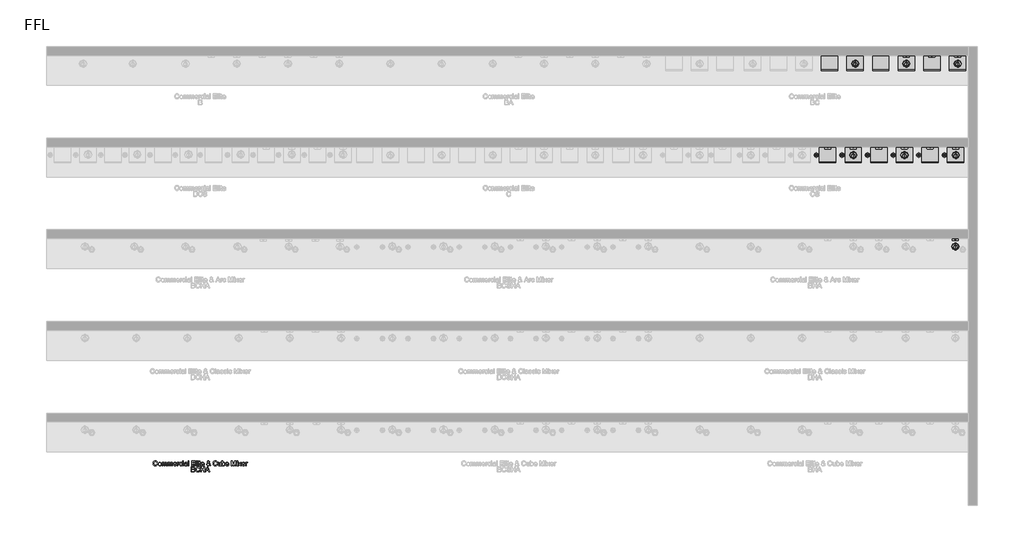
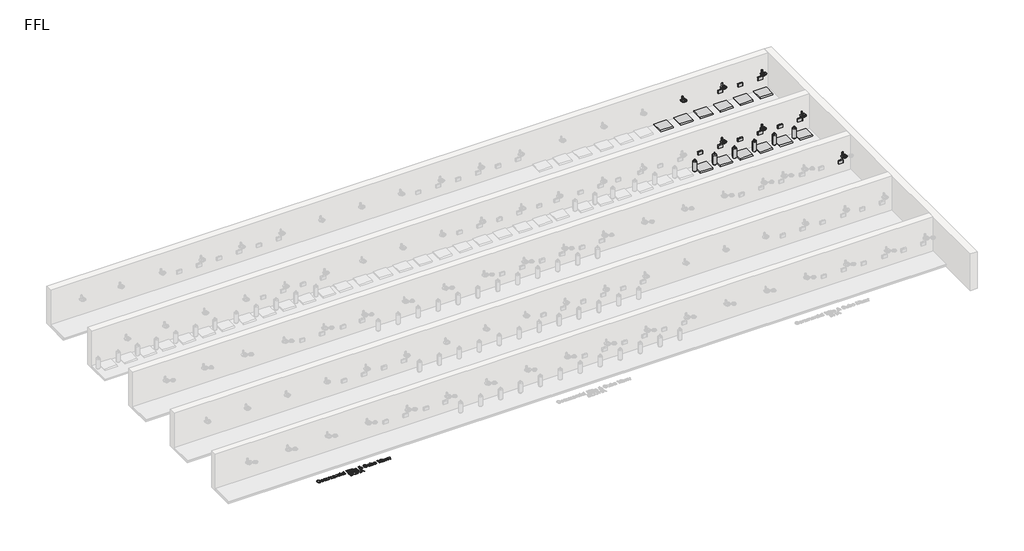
# One storey, part 3 of 13: 35 flow terminals, 1 proxy.
"""IFC4 building model written with IfcOpenShell, lengths in millimetres."""

from ifc_helpers import new_model, si_unit, origin, origin_with_axes, place, context, project, spatial, polyline, outline, extrude, transform, mapped, element, save
from components import flow_terminal_1fd3c137, bcs_and_bc_6de74493, bright_chrome_07e2d693, co2_gas_cylinder_20234e14

model = new_model("IFC4")

# Units and contexts
model_context = context("Model", 3, world=origin())
ifc_project = project(units=[si_unit("LENGTHUNIT", "METRE", prefix="MILLI")], contexts=[model_context])

# Site, building, storey
site = spatial("IfcSite", under=ifc_project)
building = spatial("IfcBuilding", under=site)
storey = spatial("IfcBuildingStorey", under=building, Name="FFL", Elevation=0.0)

# Proxy
placement = place(None, origin())
element("IfcBuildingElementProxy", 1, Name="150mm Arial", ObjectType="150mm Arial", at=placement, inside=storey, context=model_context, shape_type="SweptSolid", body=[
    extrude(outline(polyline([(-3648.5814467, -4463.6981691), (-3630.1199083, -4468.4577845), (-3638.6385381, -4489.9707052), (-3652.0069275, -4505.6873518), (-3669.5670236, -4515.301234), (-3690.6607736, -4518.5058614), (-3712.0745357, -4516.0809816), (-3729.0802448, -4508.8063422), (-3742.1151006, -4496.934347), (-3751.6163025, -4480.7173999), (-3757.4170837, -4461.6518951), (-3759.3506775, -4441.2342268), (-3757.1646799, -4419.6987701), (-3750.6066871, -4401.1020153), (-3740.0192472, -4386.0344071), (-3725.7449083, -4375.0863903), (-3708.8158217, -4368.4202244), (-3690.264139, -4366.1981691), (-3670.022252, -4369.0737701), (-3653.2869756, -4377.700573), (-3640.5811462, -4391.5467268), (-3632.4276006, -4410.0803807), (-3650.889139, -4414.4794191), (-3657.2893794, -4401.0163783), (-3666.0333698, -4391.7811018), (-3677.2292833, -4386.4400561), (-3690.9852929, -4384.6597076), (-3706.8416631, -4386.6338662), (-3719.8675044, -4392.5563422), (-3729.7518193, -4401.8051403), (-3736.1836102, -4413.7582653), (-3740.889139, -4441.1981691), (-3735.3182256, -4473.0010537), (-3728.1968313, -4484.8775561), (-3717.9744756, -4493.3195633), (-3705.7193674, -4498.3631331), (-3692.4997159, -4500.044323), (-3677.0895597, -4497.7546595), (-3664.248514, -4490.8856691), (-3654.553502, -4479.5094672), (-3648.5814467, -4463.6981691)])), origin_with_axes(), (0.0, 0.0, 1.0), 5.0),
    extrude(outline(polyline([(-3611.6583698, -4461.9673999), (-3607.6649804, -4435.8165585), (-3595.6848121, -4417.4361499), (-3580.8831294, -4408.4307412), (-3563.1607736, -4405.4289383), (-3543.7662424, -4409.0842869), (-3528.2749563, -4420.0503326), (-3518.1202087, -4437.4616908), (-3514.7352929, -4460.4529768), (-3516.2316871, -4479.1038182), (-3520.7208698, -4493.3015345), (-3528.0721318, -4503.9340465), (-3538.154764, -4511.8892749), (-3550.1304251, -4516.8517148), (-3563.1607736, -4518.5058614), (-3582.7896799, -4514.8640345), (-3598.2629371, -4503.9385537), (-3608.3095116, -4486.1621114), (-3611.6583698, -4461.9673999)]), holes=[polyline([(-3593.1968313, -4461.9313422), (-3591.0604131, -4478.6395754), (-3584.6511583, -4490.543121), (-3575.0057256, -4497.6690225), (-3563.1607736, -4500.044323), (-3551.3699083, -4497.6555008), (-3541.7425044, -4490.4890345), (-3535.3332496, -4478.4277364), (-3533.1968313, -4461.3544191), (-3535.3467712, -4445.1329648), (-3541.7965909, -4433.3916787), (-3551.4375164, -4426.2657773), (-3563.1607736, -4423.8904768), (-3575.0057256, -4426.2567629), (-3584.6511583, -4433.355621), (-3591.0604131, -4445.2321234), (-3593.1968313, -4461.9313422)])]), origin_with_axes(), (0.0, 0.0, 1.0), 5.0),
    extrude(outline(polyline([(-3493.9660621, -4516.1981691), (-3493.9660621, -4407.7366307), (-3475.5045236, -4407.7366307), (-3475.5045236, -4425.5851883), (-3462.8122159, -4410.9637941), (-3444.7473121, -4405.4289383), (-3434.4798842, -4406.8396956), (-3426.2497159, -4411.0719672), (-3416.0814467, -4426.8832653), (-3401.6763986, -4410.7925201), (-3383.4852929, -4405.4289383), (-3369.6075885, -4407.6600081), (-3359.3446679, -4414.3532172), (-3353.0030212, -4425.6888542), (-3350.889139, -4441.8472076), (-3350.889139, -4516.1981691), (-3369.3506775, -4516.1981691), (-3369.3506775, -4449.7798999), (-3371.0634179, -4434.3652364), (-3377.2653409, -4426.7750922), (-3387.8122159, -4423.8904768), (-3397.8137184, -4425.7384335), (-3405.967264, -4431.2823037), (-3411.3894395, -4440.9006932), (-3413.1968313, -4454.9722076), (-3413.1968313, -4516.1981691), (-3431.6583698, -4516.1981691), (-3431.6583698, -4447.7246114), (-3435.9312063, -4429.839996), (-3441.569728, -4425.3778566), (-3449.9396198, -4423.8904768), (-3463.6054852, -4427.856823), (-3472.6920236, -4439.4673999), (-3475.5045236, -4461.4986499), (-3475.5045236, -4516.1981691), (-3493.9660621, -4516.1981691)])), origin_with_axes(), (0.0, 0.0, 1.0), 5.0),
    extrude(outline(polyline([(-3323.1968313, -4516.1981691), (-3323.1968313, -4407.7366307), (-3304.7352929, -4407.7366307), (-3304.7352929, -4425.5851883), (-3292.0429852, -4410.9637941), (-3273.9780813, -4405.4289383), (-3263.7106534, -4406.8396956), (-3255.4804852, -4411.0719672), (-3245.3122159, -4426.8832653), (-3230.9071679, -4410.7925201), (-3212.7160621, -4405.4289383), (-3198.8383578, -4407.6600081), (-3188.5754371, -4414.3532172), (-3182.2337905, -4425.6888542), (-3180.1199083, -4441.8472076), (-3180.1199083, -4516.1981691), (-3198.5814467, -4516.1981691), (-3198.5814467, -4449.7798999), (-3200.2941871, -4434.3652364), (-3206.4961102, -4426.7750922), (-3217.0429852, -4423.8904768), (-3227.0444876, -4425.7384335), (-3235.1980333, -4431.2823037), (-3240.6202087, -4440.9006932), (-3242.4276006, -4454.9722076), (-3242.4276006, -4516.1981691), (-3260.889139, -4516.1981691), (-3260.889139, -4447.7246114), (-3265.1619756, -4429.839996), (-3270.8004972, -4425.3778566), (-3279.170389, -4423.8904768), (-3292.8362544, -4427.856823), (-3301.9227929, -4439.4673999), (-3304.7352929, -4461.4986499), (-3304.7352929, -4516.1981691), (-3323.1968313, -4516.1981691)])), origin_with_axes(), (0.0, 0.0, 1.0), 5.0),
    extrude(outline(polyline([(-3076.4901006, -4483.8904768), (-3058.389139, -4486.1981691), (-3064.9110741, -4499.8369912), (-3075.3182256, -4510.0323037), (-3089.3762184, -4516.387472), (-3106.8506775, -4518.5058614), (-3128.5123361, -4514.8505129), (-3145.1800044, -4503.8844672), (-3155.8080092, -4486.3198638), (-3159.3506775, -4462.8688422), (-3155.7719515, -4438.6290585), (-3145.0357736, -4420.5010537), (-3128.5934659, -4409.1969672), (-3107.8963506, -4405.4289383), (-3087.8437664, -4409.1879528), (-3071.8206294, -4420.464996), (-3061.3143193, -4438.5569432), (-3057.8122159, -4462.7606691), (-3057.920389, -4467.7366307), (-3140.889139, -4467.7366307), (-3137.693526, -4481.5557412), (-3130.2701486, -4491.714996), (-3119.5565068, -4497.9619912), (-3106.4901006, -4500.044323), (-3088.389139, -4496.1861499), (-3076.4901006, -4483.8904768)]), holes=[polyline([(-3140.889139, -4449.2750922), (-3076.2737544, -4449.2750922), (-3078.7707496, -4439.5214864), (-3083.6655813, -4432.544323), (-3094.4288025, -4426.0539383), (-3107.9684659, -4423.8904768), (-3120.412877, -4425.6167388), (-3130.7028409, -4430.7955249), (-3137.8557857, -4438.8679408), (-3140.889139, -4449.2750922)])]), origin_with_axes(), (0.0, 0.0, 1.0), 5.0),
    extrude(outline(polyline([(-3039.3506775, -4516.1981691), (-3039.3506775, -4407.7366307), (-3023.1968313, -4407.7366307), (-3023.1968313, -4423.7823037), (-3011.7304852, -4408.9986499), (-3000.1920236, -4405.4289383), (-2981.6583698, -4411.1260537), (-2987.8242352, -4427.6765345), (-3000.8050044, -4423.8904768), (-3011.2437063, -4427.5323037), (-3017.8963506, -4437.6284576), (-3020.889139, -4459.1909576), (-3020.889139, -4516.1981691), (-3039.3506775, -4516.1981691)])), origin_with_axes(), (0.0, 0.0, 1.0), 5.0),
    extrude(outline(polyline([(-2900.889139, -4476.9673999), (-2882.4276006, -4479.2750922), (-2887.5748361, -4495.6948638), (-2897.2473121, -4508.1032172), (-2910.5345717, -4515.9052004), (-2926.5261583, -4518.5058614), (-2946.1640789, -4514.8775561), (-2961.5201486, -4503.9926403), (-2971.4315068, -4486.3288783), (-2974.7352929, -4462.3640345), (-2969.092264, -4431.6969672), (-2961.9708698, -4420.1990706), (-2951.8927448, -4411.9914383), (-2939.8359539, -4407.0695633), (-2926.7785621, -4405.4289383), (-2911.179103, -4407.6825441), (-2898.7076486, -4414.4433614), (-2889.7608337, -4425.3508133), (-2884.7352929, -4440.044323), (-2903.1968313, -4442.3520153), (-2911.7605333, -4428.5238903), (-2926.6343313, -4423.8904768), (-2938.5649203, -4426.1711258), (-2948.0345717, -4433.013073), (-2954.2139587, -4444.7859095), (-2956.2737544, -4461.8592268), (-2954.2590309, -4479.1624119), (-2948.2148602, -4490.9758133), (-2938.9164828, -4497.7771956), (-2927.139139, -4500.044323), (-2917.5793434, -4498.6290585), (-2909.7413025, -4494.3832653), (-2904.0396799, -4487.1987701), (-2900.889139, -4476.9673999)])), origin_with_axes(), (0.0, 0.0, 1.0), 5.0),
    extrude(outline(polyline([(-2866.2737544, -4386.9673999), (-2866.2737544, -4368.5058614), (-2847.8122159, -4368.5058614), (-2847.8122159, -4386.9673999), (-2866.2737544, -4386.9673999)])), origin_with_axes(), (0.0, 0.0, 1.0), 5.0),
    extrude(outline(polyline([(-2866.2737544, -4516.1981691), (-2866.2737544, -4407.7366307), (-2847.8122159, -4407.7366307), (-2847.8122159, -4516.1981691), (-2866.2737544, -4516.1981691)])), origin_with_axes(), (0.0, 0.0, 1.0), 5.0),
    extrude(outline(polyline([(-2750.889139, -4502.3520153), (-2768.7917833, -4514.8640345), (-2788.5694275, -4518.5058614), (-2803.9976126, -4516.3153566), (-2815.3783217, -4509.7438422), (-2822.3960501, -4499.7648758), (-2824.7352929, -4487.3520153), (-2821.201639, -4472.7486499), (-2811.9167833, -4462.1476883), (-2798.9901006, -4456.089996), (-2783.0165429, -4453.3135537), (-2750.9973121, -4446.9673999), (-2750.889139, -4442.856823), (-2752.1601727, -4434.6176403), (-2755.9732736, -4429.2270153), (-2764.5009179, -4425.2246114), (-2776.3819275, -4423.8904768), (-2795.0598121, -4427.4421595), (-2803.9660621, -4440.044323), (-2822.4276006, -4437.7366307), (-2814.4408217, -4419.7077845), (-2798.3590909, -4409.1428807), (-2774.0021198, -4405.4289383), (-2751.6283217, -4408.7101883), (-2738.9901006, -4416.949371), (-2733.3290429, -4429.4794191), (-2732.4276006, -4445.6332653), (-2732.4276006, -4468.6020153), (-2731.4901006, -4500.6753326), (-2727.8122159, -4516.1981691), (-2746.2737544, -4516.1981691), (-2750.889139, -4502.3520153)]), holes=[polyline([(-2750.889139, -4465.4289383), (-2780.6727929, -4471.089996), (-2796.5562063, -4474.0827845), (-2803.7497159, -4478.950573), (-2806.2737544, -4486.0539383), (-2800.7749563, -4496.0419191), (-2784.639139, -4500.044323), (-2765.9612544, -4495.6272557), (-2753.9179852, -4484.9361499), (-2750.9973121, -4470.6573037), (-2750.889139, -4465.4289383)])]), origin_with_axes(), (0.0, 0.0, 1.0), 5.0),
    extrude(outline(polyline([(-2707.0429852, -4516.1981691), (-2707.0429852, -4368.5058614), (-2688.5814467, -4368.5058614), (-2688.5814467, -4516.1981691), (-2707.0429852, -4516.1981691)])), origin_with_axes(), (0.0, 0.0, 1.0), 5.0),
    extrude(outline(polyline([(-2600.889139, -4516.1981691), (-2600.889139, -4368.5058614), (-2494.7352929, -4368.5058614), (-2494.7352929, -4386.9673999), (-2582.4276006, -4386.9673999), (-2582.4276006, -4430.8135537), (-2499.3506775, -4430.8135537), (-2499.3506775, -4449.2750922), (-2582.4276006, -4449.2750922), (-2582.4276006, -4497.7366307), (-2492.4276006, -4497.7366307), (-2492.4276006, -4516.1981691), (-2600.889139, -4516.1981691)])), origin_with_axes(), (0.0, 0.0, 1.0), 5.0),
    extrude(outline(polyline([(-2467.0429852, -4516.1981691), (-2467.0429852, -4368.5058614), (-2448.5814467, -4368.5058614), (-2448.5814467, -4516.1981691), (-2467.0429852, -4516.1981691)])), origin_with_axes(), (0.0, 0.0, 1.0), 5.0),
    extrude(outline(polyline([(-2420.889139, -4516.1981691), (-2420.889139, -4407.7366307), (-2402.4276006, -4407.7366307), (-2402.4276006, -4516.1981691), (-2420.889139, -4516.1981691)])), origin_with_axes(), (0.0, 0.0, 1.0), 5.0),
    extrude(outline(polyline([(-2420.889139, -4386.9673999), (-2420.889139, -4368.5058614), (-2402.4276006, -4368.5058614), (-2402.4276006, -4386.9673999), (-2420.889139, -4386.9673999)])), origin_with_axes(), (0.0, 0.0, 1.0), 5.0),
    extrude(outline(polyline([(-2335.5045236, -4500.8015345), (-2333.1968313, -4516.7390345), (-2347.0069275, -4518.5058614), (-2362.4756775, -4515.4409576), (-2370.1920236, -4507.4000922), (-2372.4276006, -4486.450573), (-2372.4276006, -4426.1981691), (-2386.2737544, -4426.1981691), (-2386.2737544, -4407.7366307), (-2372.4276006, -4407.7366307), (-2372.4276006, -4381.3784576), (-2353.9660621, -4370.5250922), (-2353.9660621, -4407.7366307), (-2335.5045236, -4407.7366307), (-2335.5045236, -4426.1981691), (-2353.9660621, -4426.1981691), (-2353.9660621, -4485.9097076), (-2352.9925044, -4495.4289383), (-2349.8374563, -4498.8003326), (-2343.545389, -4500.044323), (-2335.5045236, -4500.8015345)])), origin_with_axes(), (0.0, 0.0, 1.0), 5.0),
    extrude(outline(polyline([(-2241.1054852, -4483.8904768), (-2223.0045236, -4486.1981691), (-2229.5264587, -4499.8369912), (-2239.9336102, -4510.0323037), (-2253.991603, -4516.387472), (-2271.4660621, -4518.5058614), (-2293.1277208, -4514.8505129), (-2309.795389, -4503.8844672), (-2320.4233938, -4486.3198638), (-2323.9660621, -4462.8688422), (-2320.3873361, -4438.6290585), (-2309.6511583, -4420.5010537), (-2293.2088506, -4409.1969672), (-2272.5117352, -4405.4289383), (-2252.459151, -4409.1879528), (-2236.436014, -4420.464996), (-2225.9297039, -4438.5569432), (-2222.4276006, -4462.7606691), (-2222.5357736, -4467.7366307), (-2305.5045236, -4467.7366307), (-2302.3089107, -4481.5557412), (-2294.8855333, -4491.714996), (-2284.1718914, -4497.9619912), (-2271.1054852, -4500.044323), (-2253.0045236, -4496.1861499), (-2241.1054852, -4483.8904768)]), holes=[polyline([(-2305.5045236, -4449.2750922), (-2240.889139, -4449.2750922), (-2243.3861342, -4439.5214864), (-2248.2809659, -4432.544323), (-2259.0441871, -4426.0539383), (-2272.5838506, -4423.8904768), (-2285.0282616, -4425.6167388), (-2295.3182256, -4430.7955249), (-2302.4711703, -4438.8679408), (-2305.5045236, -4449.2750922)])]), origin_with_axes(), (0.0, 0.0, 1.0), 5.0),
    extrude(outline(polyline([(-2061.5742352, -4497.9529768), (-2081.1535621, -4513.3676403), (-2104.0501967, -4518.5058614), (-2124.4227929, -4514.7017749), (-2140.107889, -4503.2895153), (-2148.1938265, -4490.1555008), (-2150.889139, -4475.5611499), (-2148.7211703, -4462.6254528), (-2142.217264, -4451.0058614), (-2131.4044635, -4440.7113903), (-2116.3098121, -4431.7510537), (-2129.2004371, -4413.0731691), (-2132.4276006, -4399.2270153), (-2129.8855333, -4386.7600682), (-2122.2593313, -4376.0419191), (-2110.7839708, -4368.6591066), (-2096.6944275, -4366.1981691), (-2083.2899804, -4368.5509335), (-2072.5718313, -4375.6092268), (-2065.5405813, -4385.9667989), (-2063.1968313, -4398.2173999), (-2064.9321078, -4408.5028566), (-2070.1379371, -4418.013073), (-2090.9612544, -4434.7077845), (-2064.2425044, -4467.9890345), (-2056.2737544, -4447.544323), (-2037.8122159, -4451.5467268), (-2050.8651006, -4481.9433614), (-2028.5814467, -4504.2991307), (-2042.4276006, -4518.5058614), (-2061.5742352, -4497.9529768)]), holes=[polyline([(-2100.3001967, -4423.0611499), (-2085.1199083, -4411.6128326), (-2081.6583698, -4400.7414383), (-2086.2196679, -4389.1488903), (-2097.6319275, -4384.6597076), (-2109.2965909, -4389.1128326), (-2113.9660621, -4399.9842268), (-2112.3795236, -4406.7450441), (-2107.5838506, -4414.263073), (-2100.3001967, -4423.0611499)]), polyline([(-2073.9420236, -4484.6476883), (-2106.8987544, -4443.5058614), (-2127.1812063, -4458.9746114), (-2132.4276006, -4473.1092268), (-2130.6337304, -4481.8171595), (-2125.2521198, -4490.8496114), (-2116.5802448, -4497.7456451), (-2104.9155813, -4500.044323), (-2087.9504371, -4495.7534576), (-2073.9420236, -4484.6476883)])]), origin_with_axes(), (0.0, 0.0, 1.0), 5.0),
    extrude(outline(polyline([(-1846.2737544, -4463.6981691), (-1827.8122159, -4468.4577845), (-1836.3308458, -4489.9707052), (-1849.6992352, -4505.6873518), (-1867.2593313, -4515.301234), (-1888.3530813, -4518.5058614), (-1909.7668434, -4516.0809816), (-1926.7725525, -4508.8063422), (-1939.8074083, -4496.934347), (-1949.3086102, -4480.7173999), (-1955.1093914, -4461.6518951), (-1957.0429852, -4441.2342268), (-1954.8569876, -4419.6987701), (-1948.2989948, -4401.1020153), (-1937.7115549, -4386.0344071), (-1923.4372159, -4375.0863903), (-1906.5081294, -4368.4202244), (-1887.9564467, -4366.1981691), (-1867.7145597, -4369.0737701), (-1850.9792833, -4377.700573), (-1838.2734539, -4391.5467268), (-1830.1199083, -4410.0803807), (-1848.5814467, -4414.4794191), (-1854.9816871, -4401.0163783), (-1863.7256775, -4391.7811018), (-1874.9215909, -4386.4400561), (-1888.6776006, -4384.6597076), (-1904.5339708, -4386.6338662), (-1917.5598121, -4392.5563422), (-1927.444127, -4401.8051403), (-1933.8759179, -4413.7582653), (-1938.5814467, -4441.1981691), (-1933.0105333, -4473.0010537), (-1925.889139, -4484.8775561), (-1915.6667833, -4493.3195633), (-1903.4116751, -4498.3631331), (-1890.1920236, -4500.044323), (-1874.7818674, -4497.7546595), (-1861.9408217, -4490.8856691), (-1852.2458097, -4479.5094672), (-1846.2737544, -4463.6981691)])), origin_with_axes(), (0.0, 0.0, 1.0), 5.0),
    extrude(outline(polyline([(-1735.5045236, -4516.1981691), (-1735.5045236, -4497.5563422), (-1749.9636583, -4513.2684816), (-1768.8218313, -4518.5058614), (-1786.1836102, -4514.8279768), (-1798.154764, -4505.5972076), (-1803.6535621, -4492.0034576), (-1804.7352929, -4474.839996), (-1804.7352929, -4407.7366307), (-1786.2737544, -4407.7366307), (-1786.2737544, -4466.1500922), (-1785.1559659, -4484.9722076), (-1777.8542833, -4496.0238903), (-1764.0982736, -4500.044323), (-1748.6836102, -4495.933746), (-1738.4973121, -4484.7378326), (-1735.5045236, -4464.1669191), (-1735.5045236, -4407.7366307), (-1717.0429852, -4407.7366307), (-1717.0429852, -4516.1981691), (-1735.5045236, -4516.1981691)])), origin_with_axes(), (0.0, 0.0, 1.0), 5.0),
    extrude(outline(polyline([(-1673.1968313, -4516.1981691), (-1691.6583698, -4516.1981691), (-1691.6583698, -4368.5058614), (-1673.1968313, -4368.5058614), (-1673.1968313, -4423.277496), (-1660.2701486, -4409.8910778), (-1644.2064467, -4405.4289383), (-1625.7088506, -4409.449371), (-1611.357889, -4420.7534576), (-1602.5417833, -4438.3315826), (-1599.3506775, -4460.3448037), (-1602.6544635, -4484.9902364), (-1612.5658217, -4503.325573), (-1627.1105934, -4514.7107893), (-1644.3146198, -4518.5058614), (-1660.7298842, -4513.6110297), (-1673.1968313, -4498.9265345), (-1673.1968313, -4516.1981691)]), holes=[polyline([(-1673.1968313, -4461.2101883), (-1671.9348121, -4476.606823), (-1668.1487544, -4487.027496), (-1658.4762784, -4496.7901162), (-1645.9011583, -4500.044323), (-1635.2461102, -4497.6464864), (-1626.1415429, -4490.4529768), (-1619.8945477, -4478.5088662), (-1617.8122159, -4461.8592268), (-1619.8089107, -4444.966198), (-1625.7989948, -4433.1573037), (-1634.6196078, -4426.2071835), (-1645.107889, -4423.8904768), (-1655.7629371, -4426.2883133), (-1664.8675044, -4433.481823), (-1671.1144996, -4445.2095874), (-1673.1968313, -4461.2101883)])]), origin_with_axes(), (0.0, 0.0, 1.0), 5.0),
    extrude(outline(polyline([(-1502.6439467, -4483.8904768), (-1484.5429852, -4486.1981691), (-1491.0649203, -4499.8369912), (-1501.4720717, -4510.0323037), (-1515.5300645, -4516.387472), (-1533.0045236, -4518.5058614), (-1554.6661823, -4514.8505129), (-1571.3338506, -4503.8844672), (-1581.9618554, -4486.3198638), (-1585.5045236, -4462.8688422), (-1581.9257977, -4438.6290585), (-1571.1896198, -4420.5010537), (-1554.7473121, -4409.1969672), (-1534.0501967, -4405.4289383), (-1513.9976126, -4409.1879528), (-1497.9744756, -4420.464996), (-1487.4681655, -4438.5569432), (-1483.9660621, -4462.7606691), (-1484.0742352, -4467.7366307), (-1567.0429852, -4467.7366307), (-1563.8473722, -4481.5557412), (-1556.4239948, -4491.714996), (-1545.710353, -4497.9619912), (-1532.6439467, -4500.044323), (-1514.5429852, -4496.1861499), (-1502.6439467, -4483.8904768)]), holes=[polyline([(-1567.0429852, -4449.2750922), (-1502.4276006, -4449.2750922), (-1504.9245958, -4439.5214864), (-1509.8194275, -4432.544323), (-1520.5826486, -4426.0539383), (-1534.1223121, -4423.8904768), (-1546.5667232, -4425.6167388), (-1556.8566871, -4430.7955249), (-1564.0096318, -4438.8679408), (-1567.0429852, -4449.2750922)])]), origin_with_axes(), (0.0, 0.0, 1.0), 5.0),
    extrude(outline(polyline([(-1405.5045236, -4516.1981691), (-1405.5045236, -4368.5058614), (-1373.7376967, -4368.5058614), (-1343.5213506, -4472.6044191), (-1337.4276006, -4494.3472076), (-1330.8290429, -4470.8015345), (-1301.1175044, -4368.5058614), (-1269.3506775, -4368.5058614), (-1269.3506775, -4516.1981691), (-1287.8122159, -4516.1981691), (-1287.8122159, -4386.9673999), (-1324.9155813, -4516.1981691), (-1349.9396198, -4516.1981691), (-1387.0429852, -4386.9673999), (-1387.0429852, -4516.1981691), (-1405.5045236, -4516.1981691)])), origin_with_axes(), (0.0, 0.0, 1.0), 5.0),
    extrude(outline(polyline([(-1239.3506775, -4516.1981691), (-1239.3506775, -4407.7366307), (-1220.889139, -4407.7366307), (-1220.889139, -4516.1981691), (-1239.3506775, -4516.1981691)])), origin_with_axes(), (0.0, 0.0, 1.0), 5.0),
    extrude(outline(polyline([(-1239.3506775, -4386.9673999), (-1239.3506775, -4368.5058614), (-1220.889139, -4368.5058614), (-1220.889139, -4386.9673999), (-1239.3506775, -4386.9673999)])), origin_with_axes(), (0.0, 0.0, 1.0), 5.0),
    extrude(outline(polyline([(-1204.7352929, -4516.1981691), (-1165.2881775, -4461.6789383), (-1202.4276006, -4407.7366307), (-1180.2160621, -4407.7366307), (-1162.295389, -4433.6981691), (-1153.9300044, -4445.9577845), (-1146.6824083, -4435.933746), (-1126.2737544, -4407.7366307), (-1104.0622159, -4407.7366307), (-1143.076639, -4461.6789383), (-1105.5045236, -4516.1981691), (-1127.7160621, -4516.1981691), (-1150.3242352, -4483.4217268), (-1154.4708698, -4477.4361499), (-1182.5237544, -4516.1981691), (-1204.7352929, -4516.1981691)])), origin_with_axes(), (0.0, 0.0, 1.0), 5.0),
    extrude(outline(polyline([(-1013.4131775, -4483.8904768), (-995.3122159, -4486.1981691), (-1001.834151, -4499.8369912), (-1012.2413025, -4510.0323037), (-1026.2992953, -4516.387472), (-1043.7737544, -4518.5058614), (-1065.4354131, -4514.8505129), (-1082.1030813, -4503.8844672), (-1092.7310861, -4486.3198638), (-1096.2737544, -4462.8688422), (-1092.6950284, -4438.6290585), (-1081.9588506, -4420.5010537), (-1065.5165429, -4409.1969672), (-1044.8194275, -4405.4289383), (-1024.7668434, -4409.1879528), (-1008.7437063, -4420.464996), (-998.2373962, -4438.5569432), (-994.7352929, -4462.7606691), (-994.8434659, -4467.7366307), (-1077.8122159, -4467.7366307), (-1074.616603, -4481.5557412), (-1067.1932256, -4491.714996), (-1056.4795837, -4497.9619912), (-1043.4131775, -4500.044323), (-1025.3122159, -4496.1861499), (-1013.4131775, -4483.8904768)]), holes=[polyline([(-1077.8122159, -4449.2750922), (-1013.1968313, -4449.2750922), (-1015.6938265, -4439.5214864), (-1020.5886583, -4432.544323), (-1031.3518794, -4426.0539383), (-1044.8915429, -4423.8904768), (-1057.3359539, -4425.6167388), (-1067.6259179, -4430.7955249), (-1074.7788626, -4438.8679408), (-1077.8122159, -4449.2750922)])]), origin_with_axes(), (0.0, 0.0, 1.0), 5.0),
    extrude(outline(polyline([(-976.2737544, -4516.1981691), (-976.2737544, -4407.7366307), (-960.1199083, -4407.7366307), (-960.1199083, -4423.7823037), (-948.6535621, -4408.9986499), (-937.1151006, -4405.4289383), (-918.5814467, -4411.1260537), (-924.7473121, -4427.6765345), (-937.7280813, -4423.8904768), (-948.1667833, -4427.5323037), (-954.8194275, -4437.6284576), (-957.8122159, -4459.1909576), (-957.8122159, -4516.1981691), (-976.2737544, -4516.1981691)])), origin_with_axes(), (0.0, 0.0, 1.0), 5.0),
    extrude(outline(polyline([(-2612.4276006, -4698.5058614), (-2612.4276006, -4550.8135537), (-2556.0694275, -4550.8135537), (-2528.467264, -4555.1585057), (-2519.1914227, -4560.6708254), (-2512.1691871, -4568.5178807), (-2506.2737544, -4587.4121114), (-2511.2316871, -4604.6657172), (-2526.2136583, -4617.7366307), (-2515.7524203, -4623.199371), (-2508.0225525, -4631.5106691), (-2503.2494155, -4642.1206451), (-2501.6583698, -4654.4794191), (-2506.0033217, -4674.3291787), (-2516.7665429, -4688.4637941), (-2532.8302448, -4695.9637941), (-2556.5021198, -4698.5058614), (-2612.4276006, -4698.5058614)]), holes=[polyline([(-2593.9660621, -4610.8135537), (-2560.2521198, -4610.8135537), (-2540.5646198, -4609.2270153), (-2528.7196679, -4602.3940826), (-2524.7352929, -4590.3688422), (-2528.4492352, -4578.325573), (-2539.0862544, -4571.2041787), (-2562.8122159, -4569.2750922), (-2593.9660621, -4569.2750922), (-2593.9660621, -4610.8135537)]), polyline([(-2593.9660621, -4680.044323), (-2556.1054852, -4680.044323), (-2542.4035621, -4679.3231691), (-2530.811014, -4675.3027364), (-2523.1307256, -4667.0996114), (-2520.1199083, -4654.6597076), (-2523.6535621, -4640.308746), (-2535.1018794, -4631.7450441), (-2557.9083698, -4629.2750922), (-2593.9660621, -4629.2750922), (-2593.9660621, -4680.044323)])]), origin_with_axes(), (0.0, 0.0, 1.0), 5.0),
    extrude(outline(polyline([(-2372.4276006, -4646.0058614), (-2353.9660621, -4650.7654768), (-2362.4846919, -4672.2783975), (-2375.8530813, -4687.9950441), (-2393.4131775, -4697.6089263), (-2414.5069275, -4700.8135537), (-2435.9206895, -4698.3886739), (-2452.9263986, -4691.1140345), (-2465.9612544, -4679.2420393), (-2475.4624563, -4663.0250922), (-2481.2632376, -4643.9595874), (-2483.1968313, -4623.5419191), (-2481.0108337, -4602.0064624), (-2474.4528409, -4583.4097076), (-2463.865401, -4568.3420994), (-2449.5910621, -4557.3940826), (-2432.6619756, -4550.7279167), (-2414.1102929, -4548.5058614), (-2393.8684059, -4551.3814624), (-2377.1331294, -4560.0082653), (-2364.4273001, -4573.8544191), (-2356.2737544, -4592.388073), (-2374.7352929, -4596.7871114), (-2381.1355333, -4583.3240706), (-2389.8795236, -4574.0887941), (-2401.0754371, -4568.7477484), (-2414.8314467, -4566.9673999), (-2430.6878169, -4568.9415585), (-2443.7136583, -4574.8640345), (-2453.5979732, -4584.1128326), (-2460.029764, -4596.0659576), (-2464.7352929, -4623.5058614), (-2459.1643794, -4655.308746), (-2452.0429852, -4667.1852484), (-2441.8206294, -4675.6272557), (-2429.5655212, -4680.6708254), (-2416.3458698, -4682.3520153), (-2400.9357135, -4680.0623518), (-2388.0946679, -4673.1933614), (-2378.3996559, -4661.8171595), (-2372.4276006, -4646.0058614)])), origin_with_axes(), (0.0, 0.0, 1.0), 5.0),
    extrude(outline(polyline([(-2328.5814467, -4698.5058614), (-2328.5814467, -4550.8135537), (-2310.1199083, -4550.8135537), (-2310.1199083, -4610.8135537), (-2231.6583698, -4610.8135537), (-2231.6583698, -4550.8135537), (-2213.1968313, -4550.8135537), (-2213.1968313, -4698.5058614), (-2231.6583698, -4698.5058614), (-2231.6583698, -4629.2750922), (-2310.1199083, -4629.2750922), (-2310.1199083, -4698.5058614), (-2328.5814467, -4698.5058614)])), origin_with_axes(), (0.0, 0.0, 1.0), 5.0),
    extrude(outline(polyline([(-2198.0886583, -4698.5058614), (-2139.1343313, -4550.8135537), (-2123.4131775, -4550.8135537), (-2064.4588506, -4698.5058614), (-2083.9660621, -4698.5058614), (-2100.8771198, -4652.3520153), (-2161.7064467, -4652.3520153), (-2178.5814467, -4698.5058614), (-2198.0886583, -4698.5058614)]), holes=[polyline([(-2154.9276006, -4633.8904768), (-2107.6199083, -4633.8904768), (-2120.9251967, -4597.5803807), (-2131.2737544, -4569.2750922), (-2140.4684659, -4594.4073037), (-2154.9276006, -4633.8904768)])]), origin_with_axes(), (0.0, 0.0, 1.0), 5.0),
])

# Flow terminals
flow_terminal_shape = flow_terminal_1fd3c137(model_context)
element("IfcFlowTerminal", 2, ObjectType="z_PlumFixt_Zenith_Booster : Booster", at=placement, inside=storey, context=model_context, shape_type="MappedRepresentation", body=[
    mapped(flow_terminal_shape, transform((20393.8480405, 5140.2393304, 538.0), x_axis=(1.0, 0.0, 0.0), y_axis=(0.0, 1.0, 0.0), z_axis=(0.0, 0.0, 1.0))),
])
element("IfcFlowTerminal", 3, ObjectType="z_PlumFixt_Zenith_Booster : Booster", at=placement, inside=storey, context=model_context, shape_type="MappedRepresentation", body=[
    mapped(flow_terminal_shape, transform((19623.0147071, 5140.2393304, 538.0), x_axis=(1.0, 0.0, 0.0), y_axis=(0.0, 1.0, 0.0), z_axis=(0.0, 0.0, 1.0))),
])
element("IfcFlowTerminal", 4, ObjectType="z_PlumFixt_Zenith_Booster : Booster", at=placement, inside=storey, context=model_context, shape_type="MappedRepresentation", body=[
    mapped(flow_terminal_shape, transform((18852.1813738, 5140.2393304, 538.0), x_axis=(1.0, 0.0, 0.0), y_axis=(0.0, 1.0, 0.0), z_axis=(0.0, 0.0, 1.0))),
])
element("IfcFlowTerminal", 5, ObjectType="z_PlumFixt_Zenith_Booster : Booster", at=placement, inside=storey, context=model_context, shape_type="MappedRepresentation", body=[
    mapped(flow_terminal_shape, transform((18081.3480405, 5140.2393304, 538.0), x_axis=(1.0, 0.0, 0.0), y_axis=(0.0, 1.0, 0.0), z_axis=(0.0, 0.0, 1.0))),
])
element("IfcFlowTerminal", 6, ObjectType="z_PlumFixt_Zenith_Booster : Booster", at=placement, inside=storey, context=model_context, shape_type="MappedRepresentation", body=[
    mapped(flow_terminal_shape, transform((17310.5147071, 5140.2393304, 538.0), x_axis=(1.0, 0.0, 0.0), y_axis=(0.0, 1.0, 0.0), z_axis=(0.0, 0.0, 1.0))),
])
element("IfcFlowTerminal", 7, ObjectType="z_PlumFixt_Zenith_Booster : Booster", at=placement, inside=storey, context=model_context, shape_type="MappedRepresentation", body=[
    mapped(flow_terminal_shape, transform((16539.6813738, 5140.2393304, 538.0), x_axis=(1.0, 0.0, 0.0), y_axis=(0.0, 1.0, 0.0), z_axis=(0.0, 0.0, 1.0))),
])
element("IfcFlowTerminal", 8, ObjectType="z_PlumFixt_Zenith_Booster : Booster", at=placement, inside=storey, context=model_context, shape_type="MappedRepresentation", body=[
    mapped(flow_terminal_shape, transform((18909.1813738, 7900.2393304, 538.0), x_axis=(1.0, 0.0, 0.0), y_axis=(0.0, 1.0, 0.0), z_axis=(0.0, 0.0, 1.0))),
])
element("IfcFlowTerminal", 9, ObjectType="z_PlumFixt_Zenith_Booster : Booster", at=placement, inside=storey, context=model_context, shape_type="MappedRepresentation", body=[
    mapped(flow_terminal_shape, transform((19680.0147071, 7900.2393304, 538.0), x_axis=(1.0, 0.0, 0.0), y_axis=(0.0, 1.0, 0.0), z_axis=(0.0, 0.0, 1.0))),
])
element("IfcFlowTerminal", 10, ObjectType="z_PlumFixt_Zenith_Booster : Booster", at=placement, inside=storey, context=model_context, shape_type="MappedRepresentation", body=[
    mapped(flow_terminal_shape, transform((20450.8480405, 7900.2393304, 538.0), x_axis=(1.0, 0.0, 0.0), y_axis=(0.0, 1.0, 0.0), z_axis=(0.0, 0.0, 1.0))),
])
element("IfcFlowTerminal", 11, ObjectType="z_PlumFixt_Zenith_Booster : Booster", at=placement, inside=storey, context=model_context, shape_type="MappedRepresentation", body=[
    mapped(flow_terminal_shape, transform((20385.5147071, 2381.1893304, 498.0), x_axis=(1.0, 0.0, 0.0), y_axis=(0.0, 1.0, 0.0), z_axis=(0.0, 0.0, 1.0))),
])
bcs_and_bc_shape = bcs_and_bc_6de74493(model_context)
element("IfcFlowTerminal", 12, ObjectType="z_PlumFixt_Zenith_Vent Tray : BCS and BC", at=placement, inside=storey, context=model_context, shape_type="MappedRepresentation", body=[
    mapped(bcs_and_bc_shape, transform((16596.6813738, 7720.7393304, 100.0), x_axis=(1.0, 0.0, 0.0), y_axis=(0.0, 1.0, 0.0), z_axis=(0.0, 0.0, 1.0))),
])
element("IfcFlowTerminal", 13, ObjectType="z_PlumFixt_Zenith_Vent Tray : BCS and BC", at=placement, inside=storey, context=model_context, shape_type="MappedRepresentation", body=[
    mapped(bcs_and_bc_shape, transform((17367.5147071, 7720.7393304, 100.0), x_axis=(1.0, 0.0, 0.0), y_axis=(0.0, 1.0, 0.0), z_axis=(0.0, 0.0, 1.0))),
])
element("IfcFlowTerminal", 14, ObjectType="z_PlumFixt_Zenith_Vent Tray : BCS and BC", at=placement, inside=storey, context=model_context, shape_type="MappedRepresentation", body=[
    mapped(bcs_and_bc_shape, transform((18138.3480405, 7720.7393304, 100.0), x_axis=(1.0, 0.0, 0.0), y_axis=(0.0, 1.0, 0.0), z_axis=(0.0, 0.0, 1.0))),
])
element("IfcFlowTerminal", 15, ObjectType="z_PlumFixt_Zenith_Vent Tray : BCS and BC", at=placement, inside=storey, context=model_context, shape_type="MappedRepresentation", body=[
    mapped(bcs_and_bc_shape, transform((18909.1813738, 7720.7393304, 100.0), x_axis=(1.0, 0.0, 0.0), y_axis=(0.0, 1.0, 0.0), z_axis=(0.0, 0.0, 1.0))),
])
element("IfcFlowTerminal", 16, ObjectType="z_PlumFixt_Zenith_Vent Tray : BCS and BC", at=placement, inside=storey, context=model_context, shape_type="MappedRepresentation", body=[
    mapped(bcs_and_bc_shape, transform((19680.0147071, 7720.7393304, 100.0), x_axis=(1.0, 0.0, 0.0), y_axis=(0.0, 1.0, 0.0), z_axis=(0.0, 0.0, 1.0))),
])
element("IfcFlowTerminal", 17, ObjectType="z_PlumFixt_Zenith_Vent Tray : BCS and BC", at=placement, inside=storey, context=model_context, shape_type="MappedRepresentation", body=[
    mapped(bcs_and_bc_shape, transform((20450.8480405, 7720.7393304, 100.0), x_axis=(1.0, 0.0, 0.0), y_axis=(0.0, 1.0, 0.0), z_axis=(0.0, 0.0, 1.0))),
])
bright_chrome_shape = bright_chrome_07e2d693(model_context)
element("IfcFlowTerminal", 18, ObjectType="z_PlumFixt_Zenith_Font and Tap Riser : Bright Chrome", at=placement, inside=storey, context=model_context, shape_type="MappedRepresentation", body=[
    mapped(bright_chrome_shape, transform((20393.8480405, 4828.9893304, 900.0), x_axis=(1.0, 0.0, 0.0), y_axis=(0.0, 1.0, 0.0), z_axis=(0.0, 0.0, 1.0))),
])
element("IfcFlowTerminal", 19, ObjectType="z_PlumFixt_Zenith_Font and Tap Riser : Bright Chrome", at=placement, inside=storey, context=model_context, shape_type="MappedRepresentation", body=[
    mapped(bright_chrome_shape, transform((18852.1813738, 4828.9893304, 900.0), x_axis=(1.0, 0.0, 0.0), y_axis=(0.0, 1.0, 0.0), z_axis=(0.0, 0.0, 1.0))),
])
element("IfcFlowTerminal", 20, ObjectType="z_PlumFixt_Zenith_Font and Tap Riser : Bright Chrome", at=placement, inside=storey, context=model_context, shape_type="MappedRepresentation", body=[
    mapped(bright_chrome_shape, transform((17310.5147071, 4828.9893304, 900.0), x_axis=(1.0, 0.0, 0.0), y_axis=(0.0, 1.0, 0.0), z_axis=(0.0, 0.0, 1.0))),
])
element("IfcFlowTerminal", 21, ObjectType="z_PlumFixt_Zenith_Font and Tap Riser : Bright Chrome", at=placement, inside=storey, context=model_context, shape_type="MappedRepresentation", body=[
    mapped(bright_chrome_shape, transform((20450.8480405, 7588.9893304, 900.0), x_axis=(1.0, 0.0, 0.0), y_axis=(0.0, 1.0, 0.0), z_axis=(0.0, 0.0, 1.0))),
])
element("IfcFlowTerminal", 22, ObjectType="z_PlumFixt_Zenith_Font and Tap Riser : Bright Chrome", at=placement, inside=storey, context=model_context, shape_type="MappedRepresentation", body=[
    mapped(bright_chrome_shape, transform((20385.5147071, 2078.9393304, 900.0), x_axis=(1.0, 0.0, 0.0), y_axis=(0.0, 1.0, 0.0), z_axis=(0.0, 0.0, 1.0))),
])
element("IfcFlowTerminal", 23, ObjectType="z_PlumFixt_Zenith_Font and Tap Riser : Bright Chrome", at=placement, inside=storey, context=model_context, shape_type="MappedRepresentation", body=[
    mapped(bright_chrome_shape, transform((18909.1813738, 7588.9893304, 900.0), x_axis=(1.0, 0.0, 0.0), y_axis=(0.0, 1.0, 0.0), z_axis=(0.0, 0.0, 1.0))),
])
element("IfcFlowTerminal", 24, ObjectType="z_PlumFixt_Zenith_Font and Tap Riser : Bright Chrome", at=placement, inside=storey, context=model_context, shape_type="MappedRepresentation", body=[
    mapped(bright_chrome_shape, transform((17367.5147071, 7588.9893304, 900.0), x_axis=(1.0, 0.0, 0.0), y_axis=(0.0, 1.0, 0.0), z_axis=(0.0, 0.0, 1.0))),
])
co2_gas_cylinder_shape = co2_gas_cylinder_20234e14(model_context)
element("IfcFlowTerminal", 25, ObjectType="z_PlumFixt_Zenith_CO2 Gas Cylinder : CO2 Gas Cylinder", at=placement, inside=storey, context=model_context, shape_type="MappedRepresentation", body=[
    mapped(co2_gas_cylinder_shape, transform((20055.8480405, 4758.2393304, 100.0), x_axis=(-1.0, 0.0, 0.0), y_axis=(0.0, -1.0, 0.0), z_axis=(0.0, 0.0, 1.0))),
])
element("IfcFlowTerminal", 26, ObjectType="z_PlumFixt_Zenith_CO2 Gas Cylinder : CO2 Gas Cylinder", at=placement, inside=storey, context=model_context, shape_type="MappedRepresentation", body=[
    mapped(co2_gas_cylinder_shape, transform((19285.0147071, 4758.2393304, 100.0), x_axis=(-1.0, 0.0, 0.0), y_axis=(0.0, -1.0, 0.0), z_axis=(0.0, 0.0, 1.0))),
])
element("IfcFlowTerminal", 27, ObjectType="z_PlumFixt_Zenith_CO2 Gas Cylinder : CO2 Gas Cylinder", at=placement, inside=storey, context=model_context, shape_type="MappedRepresentation", body=[
    mapped(co2_gas_cylinder_shape, transform((18514.1813738, 4758.2393304, 100.0), x_axis=(-1.0, 0.0, 0.0), y_axis=(0.0, -1.0, 0.0), z_axis=(0.0, 0.0, 1.0))),
])
element("IfcFlowTerminal", 28, ObjectType="z_PlumFixt_Zenith_CO2 Gas Cylinder : CO2 Gas Cylinder", at=placement, inside=storey, context=model_context, shape_type="MappedRepresentation", body=[
    mapped(co2_gas_cylinder_shape, transform((17743.3480405, 4758.2393304, 100.0), x_axis=(-1.0, 0.0, 0.0), y_axis=(0.0, -1.0, 0.0), z_axis=(0.0, 0.0, 1.0))),
])
element("IfcFlowTerminal", 29, ObjectType="z_PlumFixt_Zenith_CO2 Gas Cylinder : CO2 Gas Cylinder", at=placement, inside=storey, context=model_context, shape_type="MappedRepresentation", body=[
    mapped(co2_gas_cylinder_shape, transform((16972.5147071, 4758.2393304, 100.0), x_axis=(-1.0, 0.0, 0.0), y_axis=(0.0, -1.0, 0.0), z_axis=(0.0, 0.0, 1.0))),
])
element("IfcFlowTerminal", 30, ObjectType="z_PlumFixt_Zenith_CO2 Gas Cylinder : CO2 Gas Cylinder", at=placement, inside=storey, context=model_context, shape_type="MappedRepresentation", body=[
    mapped(co2_gas_cylinder_shape, transform((16201.6813738, 4758.2393304, 100.0), x_axis=(-1.0, 0.0, 0.0), y_axis=(0.0, -1.0, 0.0), z_axis=(0.0, 0.0, 1.0))),
])
element("IfcFlowTerminal", 31, ObjectType="z_PlumFixt_Zenith_Vent Tray : CS and C", at=placement, inside=storey, context=model_context, shape_type="MappedRepresentation", body=[
    mapped(bcs_and_bc_shape, transform((20393.8480405, 4960.7393304, 100.0), x_axis=(1.0, 0.0, 0.0), y_axis=(0.0, 1.0, 0.0), z_axis=(0.0, 0.0, 1.0))),
])
element("IfcFlowTerminal", 32, ObjectType="z_PlumFixt_Zenith_Vent Tray : CS and C", at=placement, inside=storey, context=model_context, shape_type="MappedRepresentation", body=[
    mapped(bcs_and_bc_shape, transform((19623.0147071, 4960.7393304, 100.0), x_axis=(1.0, 0.0, 0.0), y_axis=(0.0, 1.0, 0.0), z_axis=(0.0, 0.0, 1.0))),
])
element("IfcFlowTerminal", 33, ObjectType="z_PlumFixt_Zenith_Vent Tray : CS and C", at=placement, inside=storey, context=model_context, shape_type="MappedRepresentation", body=[
    mapped(bcs_and_bc_shape, transform((18852.1813738, 4960.7393304, 100.0), x_axis=(1.0, 0.0, 0.0), y_axis=(0.0, 1.0, 0.0), z_axis=(0.0, 0.0, 1.0))),
])
element("IfcFlowTerminal", 34, ObjectType="z_PlumFixt_Zenith_Vent Tray : CS and C", at=placement, inside=storey, context=model_context, shape_type="MappedRepresentation", body=[
    mapped(bcs_and_bc_shape, transform((18081.3480405, 4960.7393304, 100.0), x_axis=(1.0, 0.0, 0.0), y_axis=(0.0, 1.0, 0.0), z_axis=(0.0, 0.0, 1.0))),
])
element("IfcFlowTerminal", 35, ObjectType="z_PlumFixt_Zenith_Vent Tray : CS and C", at=placement, inside=storey, context=model_context, shape_type="MappedRepresentation", body=[
    mapped(bcs_and_bc_shape, transform((17310.5147071, 4960.7393304, 100.0), x_axis=(1.0, 0.0, 0.0), y_axis=(0.0, 1.0, 0.0), z_axis=(0.0, 0.0, 1.0))),
])
element("IfcFlowTerminal", 36, ObjectType="z_PlumFixt_Zenith_Vent Tray : CS and C", at=placement, inside=storey, context=model_context, shape_type="MappedRepresentation", body=[
    mapped(bcs_and_bc_shape, transform((16539.6813738, 4960.7393304, 100.0), x_axis=(1.0, 0.0, 0.0), y_axis=(0.0, 1.0, 0.0), z_axis=(0.0, 0.0, 1.0))),
])

save(model, "model.ifc")
